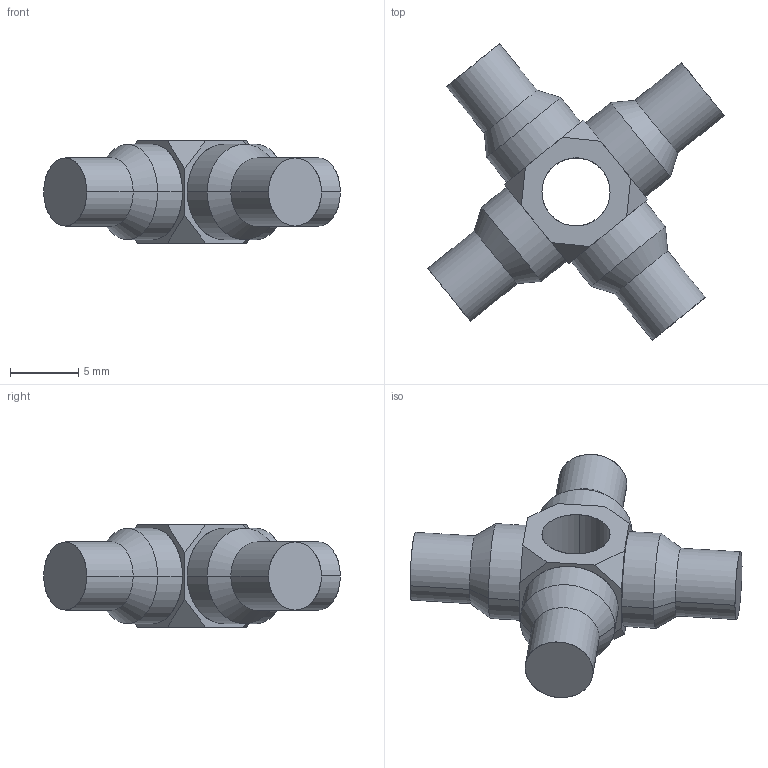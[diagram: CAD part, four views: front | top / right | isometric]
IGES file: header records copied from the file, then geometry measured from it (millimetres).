
Start section: SolidWorks IGES file using analytic representation for surfaces
Global section: file name: C:\Users\SELUHAA\Desktop\Work items\545792\IGES\IRB360_X-800-STD-4D_rev03_IGES_J\IRB360_X-800-STD-4D_rev03_UC_CAD.IGS; native system: SolidWorks 2022; preprocessor: SolidWorks 2022; author: SELUHAA; date: 231128.130236; units: millimetre
Bounding box: 21.78 x 21.78 x 7.5 mm (x, y, z)
Surface area: 939.5 mm2 (no closed solid volume)
Topology: 0 solids, 0 shells, 44 faces, 496 edges, 496 vertices
Faces by surface type: revolution 26, bspline 18
